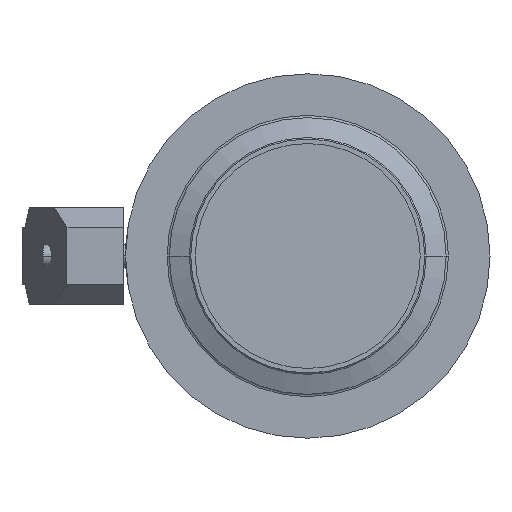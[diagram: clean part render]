
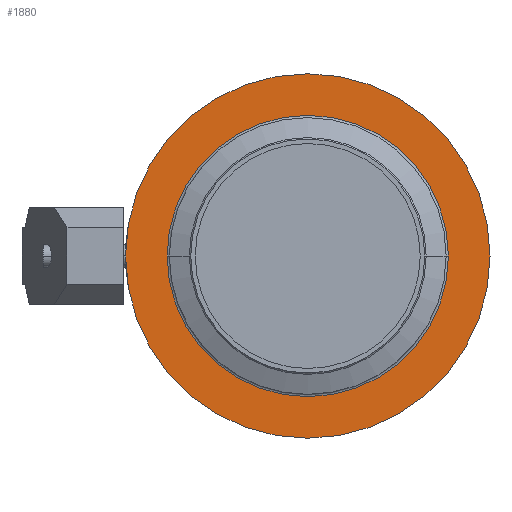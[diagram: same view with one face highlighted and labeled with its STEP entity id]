
A CAD part, left-side view. The second image highlights one B-rep face of the part: STEP entity #1880.
In plain terms, the highlighted planar face has unit normal (-1, 0, 0).
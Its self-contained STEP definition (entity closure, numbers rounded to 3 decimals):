
#1530=CARTESIAN_POINT('',(-424.648,111.796,0.));
#1540=DIRECTION('',(1.,0.,0.));
#1550=DIRECTION('',(0.,-1.,0.));
#1560=AXIS2_PLACEMENT_3D('',#1530,#1540,#1550);
#1570=PLANE('',#1560);
#1580=CARTESIAN_POINT('',(-424.648,33.146,0.));
#1590=DIRECTION('',(1.,0.,0.));
#1600=DIRECTION('',(0.,1.,0.));
#1610=AXIS2_PLACEMENT_3D('',#1580,#1590,#1600);
#1620=CIRCLE('',#1610,62.5);
#1630=CARTESIAN_POINT('',(-424.648,95.646,0.));
#1640=VERTEX_POINT('',#1630);
#1650=CARTESIAN_POINT('',(-424.648,-29.354,0.));
#1660=VERTEX_POINT('',#1650);
#1670=EDGE_CURVE('',#1640,#1660,#1620,.T.);
#1680=ORIENTED_EDGE('',*,*,#1670,.T.);
#1690=EDGE_CURVE('',#1660,#1640,#1620,.T.);
#1700=ORIENTED_EDGE('',*,*,#1690,.T.);
#1710=EDGE_LOOP('',(#1700,#1680));
#1720=FACE_BOUND('',#1710,.T.);
#1730=CARTESIAN_POINT('',(-424.648,33.146,0.));
#1740=DIRECTION('',(1.,0.,0.));
#1750=DIRECTION('',(0.,1.,0.));
#1760=AXIS2_PLACEMENT_3D('',#1730,#1740,#1750);
#1770=CIRCLE('',#1760,81.);
#1780=CARTESIAN_POINT('',(-424.648,114.146,
0.));
#1790=VERTEX_POINT('',#1780);
#1800=CARTESIAN_POINT('',(-424.648,-47.854,0.));
#1810=VERTEX_POINT('',#1800);
#1820=EDGE_CURVE('',#1790,#1810,#1770,.T.);
#1830=ORIENTED_EDGE('',*,*,#1820,.F.);
#1840=EDGE_CURVE('',#1810,#1790,#1770,.T.);
#1850=ORIENTED_EDGE('',*,*,#1840,.F.);
#1860=EDGE_LOOP('',(#1850,#1830));
#1870=FACE_OUTER_BOUND('',#1860,.T.);
#1880=ADVANCED_FACE('',(#1720,#1870),#1570,.F.);
